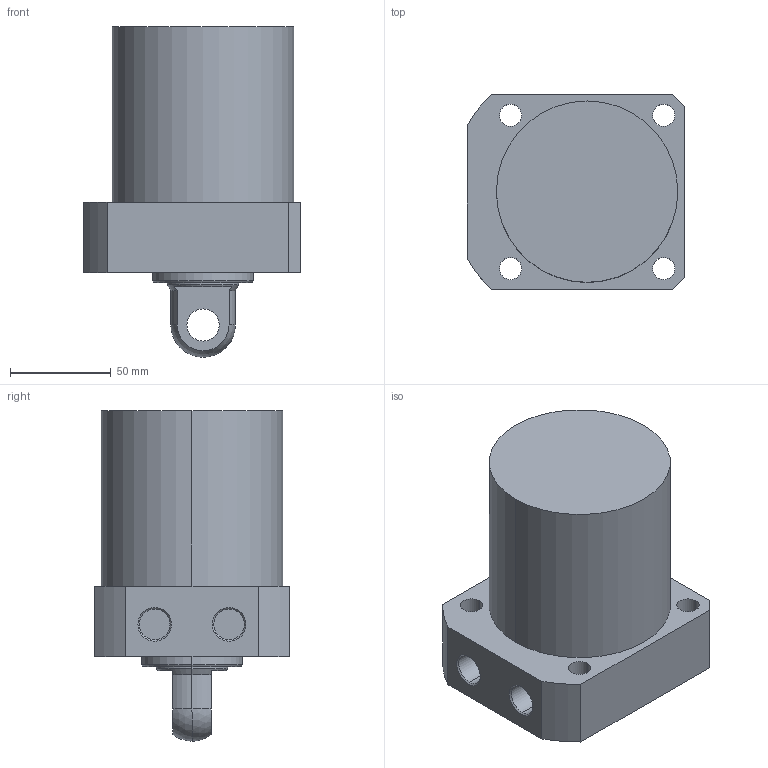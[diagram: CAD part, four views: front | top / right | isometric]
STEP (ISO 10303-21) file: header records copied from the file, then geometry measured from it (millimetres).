
FILE_DESCRIPTION (( 'STEP AP203' ), '1' );
FILE_NAME ('CLLR-090CP-065.STEP', '2019-12-19T03:25:17', ( '' ), ( '' ), 'SwSTEP 2.0', 'SolidWorks 2015', '' );
FILE_SCHEMA (( 'CONFIG_CONTROL_DESIGN' ));
Length unit declared in the file: millimetre
Products named in the file (1): CLLR-090CP-065
Bounding box: 108 x 97 x 164 mm (x, y, z)
Volume: 915942.1 mm3; surface area: 69298.2 mm2
Topology: 1 solids, 1 shells, 57 faces, 135 edges, 87 vertices
Faces by surface type: cylinder 29, plane 18, cone 8, sphere 2
Entity records: 1770 total; most frequent: DIRECTION 319, CARTESIAN_POINT 292, ORIENTED_EDGE 270, EDGE_CURVE 135, AXIS2_PLACEMENT_3D 130, VERTEX_POINT 87, EDGE_LOOP 74, CIRCLE 72
